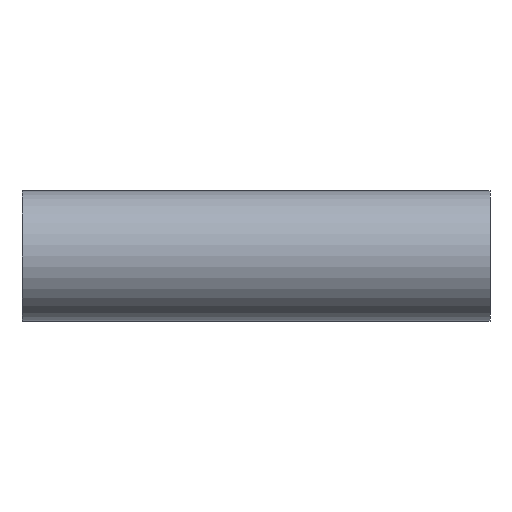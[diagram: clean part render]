
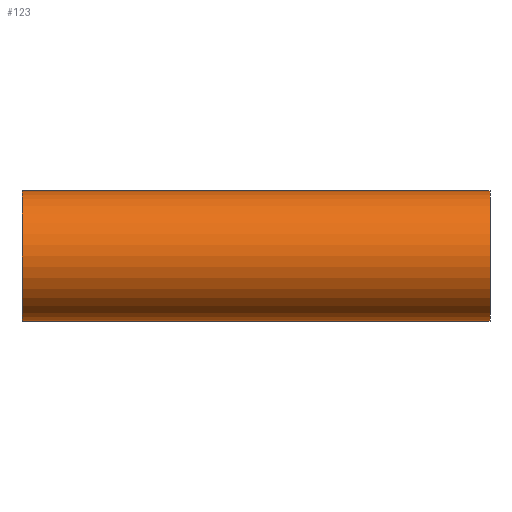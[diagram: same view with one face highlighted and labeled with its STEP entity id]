
A CAD part, front view. The second image highlights one B-rep face of the part: STEP entity #123.
In plain terms, the highlighted cylindrical face has radius 38.1 mm (diameter 76.2 mm), a partial arc.
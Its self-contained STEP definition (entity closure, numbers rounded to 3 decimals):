
#12 = ORIENTED_EDGE ( 'NONE', *, *, #171, .T. ) ;
#21 = VERTEX_POINT ( 'NONE', #406 ) ;
#27 = AXIS2_PLACEMENT_3D ( 'NONE', #402, #398, #396 ) ;
#32 = LINE ( 'NONE', #107, #209 ) ;
#33 = DIRECTION ( 'NONE',  ( 0., 0., -1. ) ) ;
#40 = CARTESIAN_POINT ( 'NONE',  ( -47.5, 0., 0. ) ) ;
#43 = DIRECTION ( 'NONE',  ( 1., 0., 0. ) ) ;
#53 = CIRCLE ( 'NONE', #179, 38.1 ) ;
#62 = EDGE_CURVE ( 'NONE', #251, #350, #146, .T. ) ;
#95 = ORIENTED_EDGE ( 'NONE', *, *, #424, .T. ) ;
#102 = ORIENTED_EDGE ( 'NONE', *, *, #294, .T. ) ;
#104 = ORIENTED_EDGE ( 'NONE', *, *, #339, .F. ) ;
#107 = CARTESIAN_POINT ( 'NONE',  ( -47.5, 0., -38.1 ) ) ;
#118 = CARTESIAN_POINT ( 'NONE',  ( -47.5, 0., -38.1 ) ) ;
#123 = ADVANCED_FACE ( 'NONE', ( #342 ), #181, .T. ) ;
#134 = CARTESIAN_POINT ( 'NONE',  ( -47.5, 0., 38.1 ) ) ;
#137 = CARTESIAN_POINT ( 'NONE',  ( -47.5, 0., 0. ) ) ;
#138 = DIRECTION ( 'NONE',  ( 1., 0., 0. ) ) ;
#146 = LINE ( 'NONE', #383, #343 ) ;
#168 = DIRECTION ( 'NONE',  ( 1., 0., 0. ) ) ;
#171 = EDGE_CURVE ( 'NONE', #417, #21, #423, .T. ) ;
#176 = ORIENTED_EDGE ( 'NONE', *, *, #62, .F. ) ;
#179 = AXIS2_PLACEMENT_3D ( 'NONE', #137, #138, #408 ) ;
#181 = CYLINDRICAL_SURFACE ( 'NONE', #244, 38.1 ) ;
#194 = VECTOR ( 'NONE', #43, 1000. ) ;
#200 = EDGE_LOOP ( 'NONE', ( #176, #95, #238, #102, #12, #104 ) ) ;
#202 = LINE ( 'NONE', #364, #219 ) ;
#209 = VECTOR ( 'NONE', #168, 1000. ) ;
#219 = VECTOR ( 'NONE', #363, 1000. ) ;
#232 = CARTESIAN_POINT ( 'NONE',  ( 0., 0., 38.1 ) ) ;
#234 = CARTESIAN_POINT ( 'NONE',  ( 0., 0., -38.1 ) ) ;
#238 = ORIENTED_EDGE ( 'NONE', *, *, #267, .T. ) ;
#241 = CARTESIAN_POINT ( 'NONE',  ( 225.4, 0., -38.1 ) ) ;
#244 = AXIS2_PLACEMENT_3D ( 'NONE', #40, #403, #33 ) ;
#251 = VERTEX_POINT ( 'NONE', #134 ) ;
#267 = EDGE_CURVE ( 'NONE', #290, #319, #32, .T. ) ;
#290 = VERTEX_POINT ( 'NONE', #300 ) ;
#294 = EDGE_CURVE ( 'NONE', #319, #417, #399, .T. ) ;
#300 = CARTESIAN_POINT ( 'NONE',  ( -47.5, 0., -38.1 ) ) ;
#319 = VERTEX_POINT ( 'NONE', #234 ) ;
#325 = DIRECTION ( 'NONE',  ( 1., 0., 0. ) ) ;
#339 = EDGE_CURVE ( 'NONE', #350, #21, #202, .T. ) ;
#342 = FACE_OUTER_BOUND ( 'NONE', #200, .T. ) ;
#343 = VECTOR ( 'NONE', #325, 1000. ) ;
#350 = VERTEX_POINT ( 'NONE', #232 ) ;
#363 = DIRECTION ( 'NONE',  ( 1., 0., 0. ) ) ;
#364 = CARTESIAN_POINT ( 'NONE',  ( -47.5, 0., 38.1 ) ) ;
#383 = CARTESIAN_POINT ( 'NONE',  ( -47.5, 0., 38.1 ) ) ;
#396 = DIRECTION ( 'NONE',  ( 0., 0., -1. ) ) ;
#398 = DIRECTION ( 'NONE',  ( -1., 0., 0. ) ) ;
#399 = LINE ( 'NONE', #118, #194 ) ;
#402 = CARTESIAN_POINT ( 'NONE',  ( 225.4, 0., 0. ) ) ;
#403 = DIRECTION ( 'NONE',  ( 1., 0., 0. ) ) ;
#406 = CARTESIAN_POINT ( 'NONE',  ( 225.4, 0., 38.1 ) ) ;
#408 = DIRECTION ( 'NONE',  ( 0., 0., -1. ) ) ;
#417 = VERTEX_POINT ( 'NONE', #241 ) ;
#423 = CIRCLE ( 'NONE', #27, 38.1 ) ;
#424 = EDGE_CURVE ( 'NONE', #251, #290, #53, .T. ) ;
